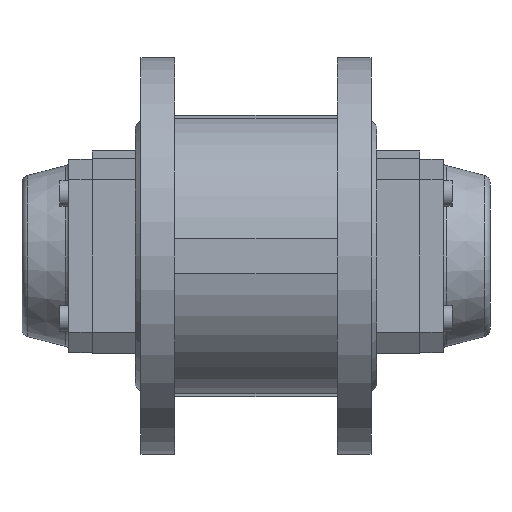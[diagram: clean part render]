
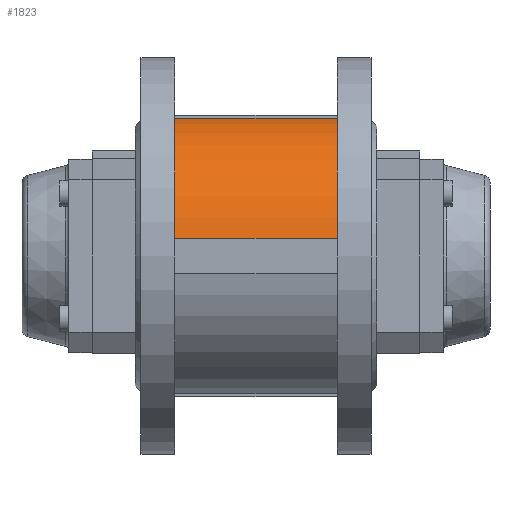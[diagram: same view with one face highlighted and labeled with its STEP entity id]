
A CAD part, front view. The second image highlights one B-rep face of the part: STEP entity #1823.
In plain terms, the highlighted cylindrical face has radius 70.5 mm (diameter 141 mm), a partial arc.
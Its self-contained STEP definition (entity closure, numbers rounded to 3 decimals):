
#238 = VERTEX_POINT ( 'NONE', #14446 ) ;
#351 = VERTEX_POINT ( 'NONE', #14559 ) ;
#401 = EDGE_LOOP ( 'NONE', ( #9346, #9345, #9344, #9343 ) ) ;
#616 = CARTESIAN_POINT ( 'NONE',  ( 41., 0., 0. ) ) ;
#617 = DIRECTION ( 'NONE',  ( 1., 0., 0. ) ) ;
#618 = DIRECTION ( 'NONE',  ( 0., 0., -1. ) ) ;
#1543 = EDGE_CURVE ( 'NONE', #238, #14863, #14600, .T. ) ;
#1544 = EDGE_CURVE ( 'NONE', #351, #14860, #14603, .T. ) ;
#1578 = EDGE_CURVE ( 'NONE', #14860, #14863, #9917, .T. ) ;
#1613 = EDGE_CURVE ( 'NONE', #351, #238, #9824, .T. ) ;
#1823 = ADVANCED_FACE ( 'NONE', ( #6977 ), #6976, .T. ) ;
#5223 = CARTESIAN_POINT ( 'NONE',  ( -41., -12.5, 69.383 ) ) ;
#5226 = CARTESIAN_POINT ( 'NONE',  ( -41., -69.923, 9. ) ) ;
#6971 = DIRECTION ( 'NONE',  ( -1., 0., 0. ) ) ;
#6973 = CARTESIAN_POINT ( 'NONE',  ( 41., 0., 0. ) ) ;
#6976 = CYLINDRICAL_SURFACE ( 'NONE', #10377, 70.5 ) ;
#6977 = FACE_OUTER_BOUND ( 'NONE', #401, .T. ) ;
#6979 = DIRECTION ( 'NONE',  ( 0., 0., 1. ) ) ;
#9343 = ORIENTED_EDGE ( 'NONE', *, *, #1613, .F. ) ;
#9344 = ORIENTED_EDGE ( 'NONE', *, *, #1543, .F. ) ;
#9345 = ORIENTED_EDGE ( 'NONE', *, *, #1578, .T. ) ;
#9346 = ORIENTED_EDGE ( 'NONE', *, *, #1544, .T. ) ;
#9824 = CIRCLE ( 'NONE', #9948, 70.5 ) ;
#9836 = AXIS2_PLACEMENT_3D ( 'NONE', #14714, #14715, #14716 ) ;
#9917 = CIRCLE ( 'NONE', #9836, 70.5 ) ;
#9948 = AXIS2_PLACEMENT_3D ( 'NONE', #616, #617, #618 ) ;
#9990 = VECTOR ( 'NONE', #14608, 1000. ) ;
#9991 = VECTOR ( 'NONE', #14611, 1000. ) ;
#10377 = AXIS2_PLACEMENT_3D ( 'NONE', #6973, #6971, #6979 ) ;
#14446 = CARTESIAN_POINT ( 'NONE',  ( 41., -69.923, 9. ) ) ;
#14559 = CARTESIAN_POINT ( 'NONE',  ( 41., -12.5, 69.383 ) ) ;
#14600 = LINE ( 'NONE', #14607, #9990 ) ;
#14603 = LINE ( 'NONE', #14609, #9991 ) ;
#14607 = CARTESIAN_POINT ( 'NONE',  ( 41., -69.923, 9. ) ) ;
#14608 = DIRECTION ( 'NONE',  ( -1., 0., 0. ) ) ;
#14609 = CARTESIAN_POINT ( 'NONE',  ( 41., -12.5, 69.383 ) ) ;
#14611 = DIRECTION ( 'NONE',  ( -1., 0., 0. ) ) ;
#14714 = CARTESIAN_POINT ( 'NONE',  ( -41., 0., 0. ) ) ;
#14715 = DIRECTION ( 'NONE',  ( 1., 0., 0. ) ) ;
#14716 = DIRECTION ( 'NONE',  ( 0., 0., -1. ) ) ;
#14860 = VERTEX_POINT ( 'NONE', #5223 ) ;
#14863 = VERTEX_POINT ( 'NONE', #5226 ) ;
